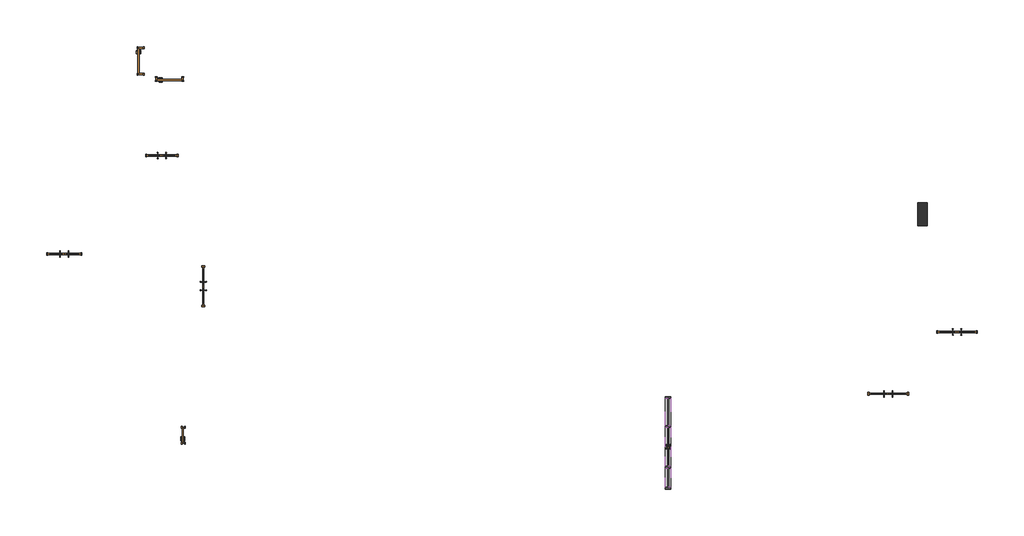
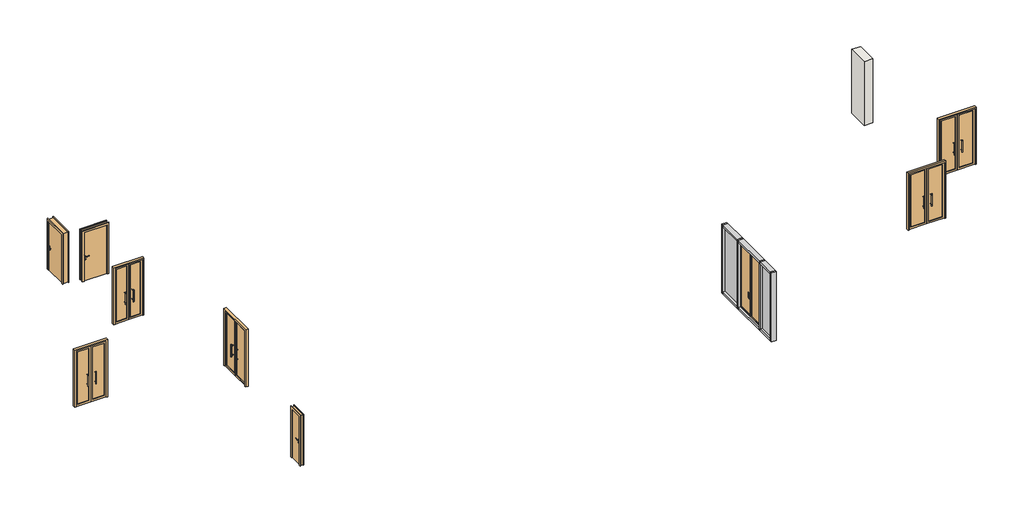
# One storey: 10 members, 9 doors, 2 plates, 1 wall.
"""IFC4 building model written with IfcOpenShell, lengths in millimetres."""

from ifc_helpers import new_model, si_unit, origin, origin_with_axes, place, context, project, spatial, polyline, outline, extrude, transform, mapped, element, save
from components import door_3722e41d, m0621_319aa167, m1021_343cb919, m1021_ab7da2a0, m1224_4f9c1d82, m1324_f99653ee, m1524_b04c4a10, member_70_x_200mm_03d0c41a, member_70_x_200mm_59cc5c2e, member_80_x_200mm_acbc830d, member_80_x_200mm_ad283842, member_80_x_200mm_1bd8c9b3, plate_3e347498, plate_a8f68738

model = new_model("IFC4")

# Units and contexts
model_context = context("Model", 3, world=origin())
ifc_project = project(units=[si_unit("LENGTHUNIT", "METRE", prefix="MILLI")], contexts=[model_context])

# Site, building, storey
site = spatial("IfcSite", under=ifc_project)
building = spatial("IfcBuilding", under=site)
storey = spatial("IfcBuildingStorey", under=building, Name="20F(A)", Elevation=0.0)

# Doors
placement = place(None, origin())
door_shape = door_3722e41d(model_context)
element("IfcDoor", 1, ObjectType="门嵌板_双开门3 : 门嵌板_双开门 3", at=placement, inside=storey, context=model_context, shape_type="MappedRepresentation", body=[
    mapped(door_shape, transform((23420.0000001, 4069.99237, 80.0), x_axis=(0.0, -1.0, 0.0), y_axis=(1.0, 0.0, 0.0), z_axis=(0.0, 0.0, 1.0))),
])
m0621_shape = m0621_319aa167(model_context)
element("IfcDoor", 2, ObjectType="单嵌板木门 1 : M0621", at=placement, inside=storey, context=model_context, shape_type="MappedRepresentation", body=[
    mapped(m0621_shape, transform((5620.0000009, 4500.0000398, 0.0), x_axis=(0.0, 1.0, 0.0), y_axis=(-1.0, 0.0, 0.0), z_axis=(0.0, 0.0, 1.0))),
])
m1021_shape = m1021_343cb919(model_context)
element("IfcDoor", 3, ObjectType="单嵌板木门 1 : M1021", at=placement, inside=storey, context=model_context, shape_type="MappedRepresentation", body=[
    mapped(m1021_shape, transform((5110.0297539, 17579.9923701, 0.0), x_axis=(1.0, 0.0, 0.0), y_axis=(0.0, 1.0, 0.0), z_axis=(0.0, 0.0, 1.0))),
])
m1021_2_shape = m1021_ab7da2a0(model_context)
element("IfcDoor", 4, ObjectType="单嵌板木门 1 : M1021", at=placement, inside=storey, context=model_context, shape_type="MappedRepresentation", body=[
    mapped(m1021_2_shape, transform((4050.0000009, 18239.9923701, 0.0), x_axis=(0.0, -1.0, 0.0), y_axis=(1.0, 0.0, 0.0), z_axis=(0.0, 0.0, 1.0))),
])
m1224_shape = m1224_4f9c1d82(model_context)
element("IfcDoor", 5, ObjectType="双面嵌板玻璃门 : M1224", at=placement, inside=storey, context=model_context, shape_type="MappedRepresentation", body=[
    mapped(m1224_shape, transform((4830.0000009, 14769.99237, 0.0), x_axis=(1.0, 0.0, 0.0), y_axis=(0.0, 1.0, 0.0), z_axis=(0.0, 0.0, 1.0))),
])
m1324_shape = m1324_f99653ee(model_context)
element("IfcDoor", 6, ObjectType="双面嵌板玻璃门 : M1324", at=placement, inside=storey, context=model_context, shape_type="MappedRepresentation", body=[
    mapped(m1324_shape, transform((1244.7734133, 11149.9923707, 0.0), x_axis=(1.0, 0.0, 0.0), y_axis=(0.0, 1.0, 0.0), z_axis=(0.0, 0.0, 1.0))),
])
m1524_shape = m1524_b04c4a10(model_context)
element("IfcDoor", 7, ObjectType="双面嵌板玻璃门 : M1524", at=placement, inside=storey, context=model_context, shape_type="MappedRepresentation", body=[
    mapped(m1524_shape, transform((6350.0000006, 9975.0076698, 0.0), x_axis=(0.0, 1.0, 0.0), y_axis=(-1.0, 0.0, 0.0), z_axis=(0.0, 0.0, 1.0))),
])
element("IfcDoor", 8, ObjectType="双面嵌板玻璃门 : M1524", at=placement, inside=storey, context=model_context, shape_type="MappedRepresentation", body=[
    mapped(m1524_shape, transform((34024.3876518, 8289.9847401, 0.0), x_axis=(-1.0, 0.0, 0.0), y_axis=(0.0, -1.0, 0.0), z_axis=(0.0, 0.0, 1.0))),
])
element("IfcDoor", 9, ObjectType="双面嵌板玻璃门 : M1524", at=placement, inside=storey, context=model_context, shape_type="MappedRepresentation", body=[
    mapped(m1524_shape, transform((31500.0000015, 6019.99237, 0.0), x_axis=(1.0, 0.0, 0.0), y_axis=(0.0, 1.0, 0.0), z_axis=(0.0, 0.0, 1.0))),
])

# Members
member_70_x_200mm_shape = member_70_x_200mm_03d0c41a(model_context)
element("IfcMember", 10, ObjectType="矩形竖梃 : 70 x 200mm", at=placement, inside=storey, context=model_context, shape_type="MappedRepresentation", body=[
    mapped(member_70_x_200mm_shape, transform((23420.0000001, 3319.99237, 0.0), x_axis=(0.0, -1.0, 0.0), y_axis=(-1.0, 0.0, 0.0), z_axis=(0.0, 0.0, -1.0))),
])
element("IfcMember", 11, ObjectType="矩形竖梃 : 70 x 200mm", at=placement, inside=storey, context=model_context, shape_type="MappedRepresentation", body=[
    mapped(member_70_x_200mm_shape, transform((23420.0000001, 4819.99237, 0.0), x_axis=(0.0, -1.0, 0.0), y_axis=(-1.0, 0.0, 0.0), z_axis=(0.0, 0.0, -1.0))),
])
member_70_x_200mm_2_shape = member_70_x_200mm_59cc5c2e(model_context)
element("IfcMember", 12, ObjectType="矩形竖梃 : 70 x 200mm", at=placement, inside=storey, context=model_context, shape_type="MappedRepresentation", body=[
    mapped(member_70_x_200mm_2_shape, transform((23420.0000001, 2519.99237, 0.0), x_axis=(0.0, -1.0, 0.0), y_axis=(-1.0, 0.0, 0.0), z_axis=(0.0, 0.0, -1.0))),
])
element("IfcMember", 13, ObjectType="矩形竖梃 : 70 x 200mm", at=placement, inside=storey, context=model_context, shape_type="MappedRepresentation", body=[
    mapped(member_70_x_200mm_2_shape, transform((23420.0000001, 5919.99237, 2900.0), x_axis=(0.0, 1.0, 0.0), y_axis=(-1.0, 0.0, 0.0), z_axis=(0.0, 0.0, 1.0))),
])
member_80_x_200mm_shape = member_80_x_200mm_acbc830d(model_context)
element("IfcMember", 14, ObjectType="矩形竖梃 : 80 x 200mm", at=placement, inside=storey, context=model_context, shape_type="MappedRepresentation", body=[
    mapped(member_80_x_200mm_shape, transform((23420.0000001, 2589.99237, 2900.0), x_axis=(0.0, 0.0, 1.0), y_axis=(-1.0, 0.0, 0.0), z_axis=(0.0, -1.0, 0.0))),
])
element("IfcMember", 15, ObjectType="矩形竖梃 : 80 x 200mm", at=placement, inside=storey, context=model_context, shape_type="MappedRepresentation", body=[
    mapped(member_80_x_200mm_shape, transform((23420.0000001, 3284.99237, 0.0), x_axis=(0.0, 0.0, -1.0), y_axis=(-1.0, 0.0, 0.0), z_axis=(0.0, 1.0, 0.0))),
])
member_80_x_200mm_2_shape = member_80_x_200mm_ad283842(model_context)
element("IfcMember", 16, ObjectType="矩形竖梃 : 80 x 200mm", at=placement, inside=storey, context=model_context, shape_type="MappedRepresentation", body=[
    mapped(member_80_x_200mm_2_shape, transform((23420.0000001, 5849.99237, 0.0), x_axis=(0.0, 0.0, -1.0), y_axis=(-1.0, 0.0, 0.0), z_axis=(0.0, 1.0, 0.0))),
])
member_80_x_200mm_3_shape = member_80_x_200mm_1bd8c9b3(model_context)
element("IfcMember", 17, ObjectType="矩形竖梃 : 80 x 200mm", at=placement, inside=storey, context=model_context, shape_type="MappedRepresentation", body=[
    mapped(member_80_x_200mm_3_shape, transform((23420.0000001, 3354.99237, 2900.0), x_axis=(0.0, 0.0, 1.0), y_axis=(-1.0, 0.0, 0.0), z_axis=(0.0, -1.0, 0.0))),
])
element("IfcMember", 18, ObjectType="矩形竖梃 : 80 x 200mm", at=placement, inside=storey, context=model_context, shape_type="MappedRepresentation", body=[
    mapped(member_80_x_200mm_2_shape, transform((23420.0000001, 4854.99237, 2900.0), x_axis=(0.0, 0.0, 1.0), y_axis=(-1.0, 0.0, 0.0), z_axis=(0.0, -1.0, 0.0))),
])
element("IfcMember", 19, ObjectType="矩形竖梃 : 80 x 200mm", at=placement, inside=storey, context=model_context, shape_type="MappedRepresentation", body=[
    mapped(member_80_x_200mm_3_shape, transform((23420.0000001, 4784.99237, 0.0), x_axis=(0.0, 0.0, -1.0), y_axis=(-1.0, 0.0, 0.0), z_axis=(0.0, 1.0, 0.0))),
])

# Plates
plate_shape = plate_3e347498(model_context)
element("IfcPlate", 20, ObjectType="系统嵌板 : 玻璃", at=placement, inside=storey, context=model_context, shape_type="MappedRepresentation", body=[
    mapped(plate_shape, transform((23420.0000001, 5352.49237, 80.0), x_axis=(0.0, -1.0, 0.0), y_axis=(1.0, 0.0, 0.0), z_axis=(0.0, 0.0, 1.0))),
])
plate_2_shape = plate_a8f68738(model_context)
element("IfcPlate", 21, ObjectType="系统嵌板 : 玻璃", at=placement, inside=storey, context=model_context, shape_type="MappedRepresentation", body=[
    mapped(plate_2_shape, transform((23420.0000001, 2937.49237, 80.0), x_axis=(0.0, -1.0, 0.0), y_axis=(1.0, 0.0, 0.0), z_axis=(0.0, 0.0, 1.0))),
])

# Wall
element("IfcWall", 22, ObjectType="非承重墙-350", at=placement, inside=storey, context=model_context, shape_type="SweptSolid", body=[
    extrude(outline(polyline([(32590.0000001, 12187.412887), (32590.0000001, 13039.9924082), (32940.0000001, 13039.9924082), (32940.0000001, 12187.412887), (32590.0000001, 12187.412887)])), origin_with_axes(), (0.0, 0.0, 1.0), 2680.0),
])

save(model, "model.ifc")
